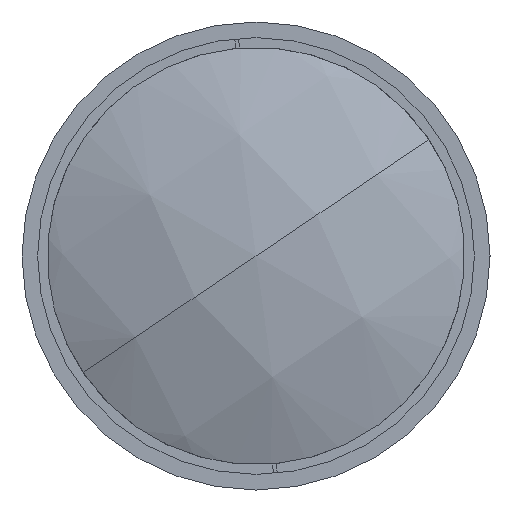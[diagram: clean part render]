
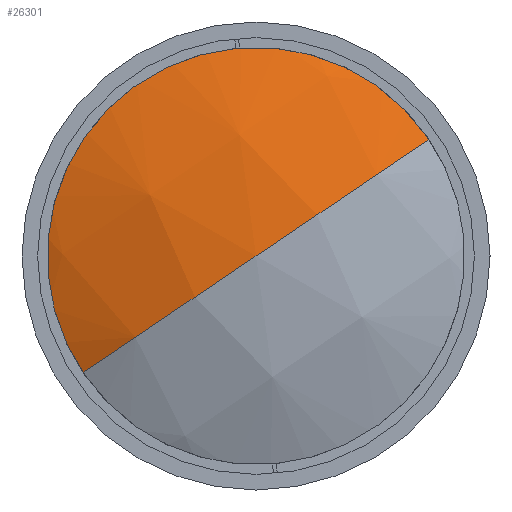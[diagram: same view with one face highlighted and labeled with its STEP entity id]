
A CAD part, left-side view. The second image highlights one B-rep face of the part: STEP entity #26301.
In plain terms, the highlighted spherical face has radius 133.05 mm.
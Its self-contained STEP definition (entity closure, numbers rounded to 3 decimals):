
#1316 = EDGE_LOOP ( 'NONE', ( #29839, #3772, #25119 ) ) ;
#1664 = DIRECTION ( 'NONE',  ( 0., 0.558, 0.83 ) ) ;
#1893 = DIRECTION ( 'NONE',  ( 0., -0.83, 0.558 ) ) ;
#3276 = CIRCLE ( 'NONE', #19942, 133.05 ) ;
#3772 = ORIENTED_EDGE ( 'NONE', *, *, #10501, .T. ) ;
#3807 = DIRECTION ( 'NONE',  ( 0., -0.558, -0.83 ) ) ;
#9065 = AXIS2_PLACEMENT_3D ( 'NONE', #16373, #1664, #18725 ) ;
#9238 = CARTESIAN_POINT ( 'NONE',  ( 134.55, 0., 0. ) ) ;
#9334 = CIRCLE ( 'NONE', #9065, 133.05 ) ;
#9687 = EDGE_CURVE ( 'NONE', #30788, #14380, #3276, .T. ) ;
#10501 = EDGE_CURVE ( 'NONE', #14579, #14380, #9334, .T. ) ;
#10632 = EDGE_CURVE ( 'NONE', #30788, #14579, #13574, .T. ) ;
#12088 = CARTESIAN_POINT ( 'NONE',  ( 13.4, 0., 0. ) ) ;
#13574 = CIRCLE ( 'NONE', #24973, 55. ) ;
#14380 = VERTEX_POINT ( 'NONE', #23259 ) ;
#14567 = DIRECTION ( 'NONE',  ( 0., 0.558, 0.83 ) ) ;
#14579 = VERTEX_POINT ( 'NONE', #18095 ) ;
#16373 = CARTESIAN_POINT ( 'NONE',  ( 134.55, 0., 0. ) ) ;
#18095 = CARTESIAN_POINT ( 'NONE',  ( 13.4, 45.636, -30.697 ) ) ;
#18387 = CARTESIAN_POINT ( 'NONE',  ( 134.55, 0., 0. ) ) ;
#18606 = CARTESIAN_POINT ( 'NONE',  ( 13.4, -45.636, 30.697 ) ) ;
#18725 = DIRECTION ( 'NONE',  ( 0., -0.83, 0.558 ) ) ;
#18753 = AXIS2_PLACEMENT_3D ( 'NONE', #9238, #23481, #1893 ) ;
#19942 = AXIS2_PLACEMENT_3D ( 'NONE', #18387, #3807, #20713 ) ;
#20713 = DIRECTION ( 'NONE',  ( 0., 0.83, -0.558 ) ) ;
#23259 = CARTESIAN_POINT ( 'NONE',  ( 1.5, 0., 0. ) ) ;
#23481 = DIRECTION ( 'NONE',  ( 0., 0.558, 0.83 ) ) ;
#23762 = SPHERICAL_SURFACE ( 'NONE', #18753, 133.05 ) ;
#24973 = AXIS2_PLACEMENT_3D ( 'NONE', #12088, #28488, #14567 ) ;
#25119 = ORIENTED_EDGE ( 'NONE', *, *, #9687, .F. ) ;
#26301 = ADVANCED_FACE ( 'NONE', ( #29940 ), #23762, .T. ) ;
#28488 = DIRECTION ( 'NONE',  ( -1., 0., 0. ) ) ;
#29839 = ORIENTED_EDGE ( 'NONE', *, *, #10632, .T. ) ;
#29940 = FACE_OUTER_BOUND ( 'NONE', #1316, .T. ) ;
#30788 = VERTEX_POINT ( 'NONE', #18606 ) ;
